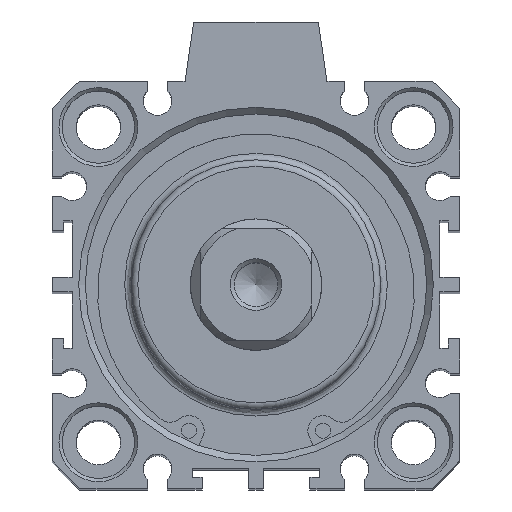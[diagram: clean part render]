
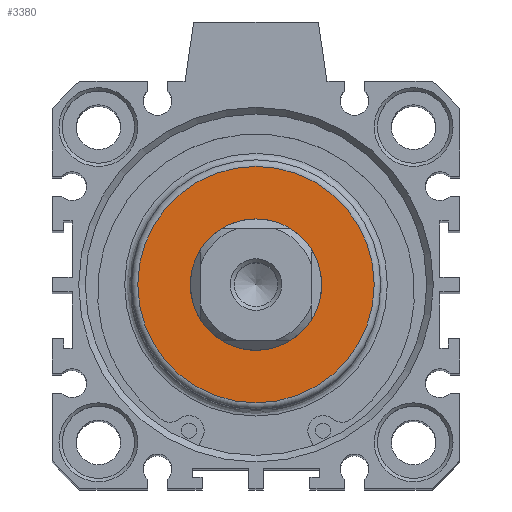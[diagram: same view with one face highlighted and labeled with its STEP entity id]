
A CAD part, top view. The second image highlights one B-rep face of the part: STEP entity #3380.
In plain terms, the highlighted planar face has unit normal (0, 0, 1).
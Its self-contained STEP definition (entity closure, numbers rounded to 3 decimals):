
#2900=CARTESIAN_POINT('',(-7.057,11.794,157.5));
#2901=VERTEX_POINT('',#2900);
#2902=CARTESIAN_POINT('',(-7.057,1.794,157.5));
#2903=DIRECTION('',(0.0,0.0,-1.0));
#2904=DIRECTION('',(0.0,1.0,0.0));
#2905=AXIS2_PLACEMENT_3D('',#2902,#2903,#2904);
#2906=CIRCLE('',#2905,10.);
#2907=EDGE_CURVE('',#2901,#2901,#2906,.T.);
#3354=CARTESIAN_POINT('',(-7.057,19.794,157.5));
#3355=VERTEX_POINT('',#3354);
#3356=CARTESIAN_POINT('',(-7.057,1.794,157.5));
#3357=DIRECTION('',(0.0,0.0,-1.0));
#3358=DIRECTION('',(0.0,-1.0,0.0));
#3359=AXIS2_PLACEMENT_3D('',#3356,#3357,#3358);
#3360=CIRCLE('',#3359,18.);
#3361=EDGE_CURVE('',#3355,#3355,#3360,.T.);
#3369=CARTESIAN_POINT('',(-7.057,11.294,157.5));
#3370=DIRECTION('',(0.0,0.0,1.0));
#3371=DIRECTION('',(1.0,0.0,0.0));
#3372=AXIS2_PLACEMENT_3D('',#3369,#3370,#3371);
#3373=PLANE('',#3372);
#3374=ORIENTED_EDGE('',*,*,#3361,.F.);
#3375=EDGE_LOOP('',(#3374));
#3376=FACE_OUTER_BOUND('',#3375,.T.);
#3377=ORIENTED_EDGE('',*,*,#2907,.T.);
#3378=EDGE_LOOP('',(#3377));
#3379=FACE_BOUND('',#3378,.T.);
#3380=ADVANCED_FACE('',(#3376,#3379),#3373,.T.);
